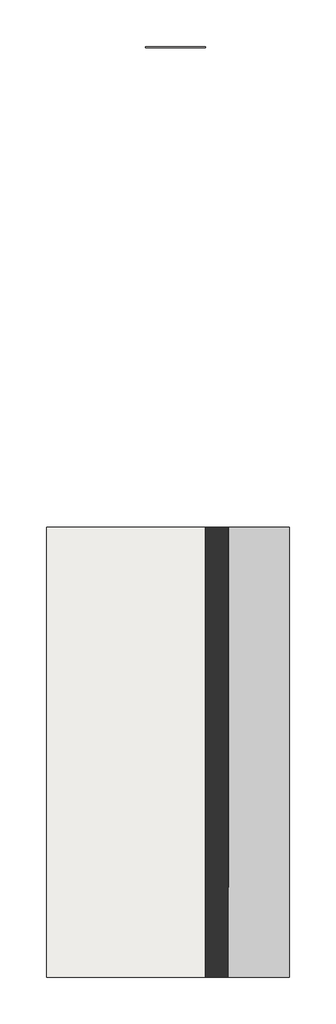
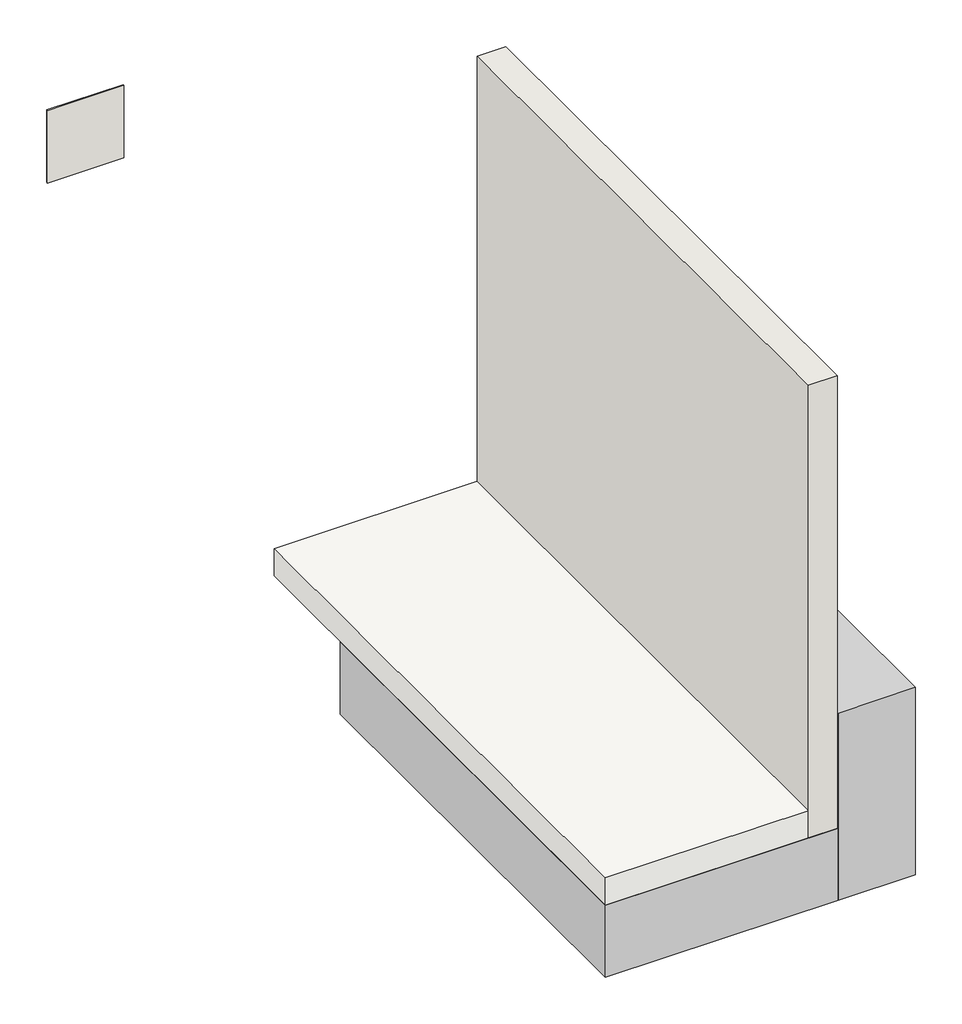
# One storey: 2 walls, 1 proxy, 1 slab.
"""IFC4 building model written with IfcOpenShell, lengths in millimetres."""

from ifc_helpers import new_model, si_unit, frame, origin, place, context, project, spatial, polyline, outline, extrude, transform, mapped, element, save
from components import generic_models_d400f225

model = new_model("IFC4")

# Units and contexts
model_context = context("Model", 3, world=origin())
ifc_project = project(units=[si_unit("LENGTHUNIT", "METRE", prefix="MILLI")], contexts=[model_context])

# Site, building, storey
site = spatial("IfcSite", under=ifc_project)
building = spatial("IfcBuilding", under=site)
storey = spatial("IfcBuildingStorey", under=building, Name="ARQ Térreo", Elevation=-2.523798)

# Proxy
placement = place(None, origin())
generic_models_shape = generic_models_d400f225(model_context)
element("IfcBuildingElementProxy", 1, Name="IMPER:IMPER:433934 : IMPER:IMPER:433934", ObjectType="IMPER:IMPER:433934 : IMPER:IMPER:433934", at=placement, inside=storey, context=model_context, shape_type="MappedRepresentation", body=[
    mapped(generic_models_shape, transform((0.0, 0.0, 0.0), x_axis=(1.0, 0.0, 0.0), y_axis=(0.0, 1.0, 0.0), z_axis=(0.0, 0.0, 1.0))),
])

# Slab
element("IfcSlab", 2, ObjectType="Genérico 150 mm", at=placement, inside=storey, context=model_context, shape_type="SweptSolid", body=[
    extrude(outline(polyline([(-1562.7804486, 145.8700195), (-501.9704105, 145.8700195), (-501.9704105, -2854.1299805), (-1562.7804486, -2854.1299805), (-1562.7804486, 145.8700195)])), frame((0.0, 0.0, -2.523798), z_axis=(0.0, 0.0, 1.0), x_axis=(1.0, 0.0, 0.0)), (0.0, 0.0, 1.0), 150.0),
])

# Walls
element("IfcWall", 3, ObjectType="Parede básica:Parede Concreto", at=placement, inside=storey, context=model_context, shape_type="SweptSolid", body=[
    extrude(outline(polyline([(-501.9704105, -2854.1299805), (-501.9704105, 145.8700195), (-351.9704105, 145.8700195), (-351.9704105, -2854.1299805), (-501.9704105, -2854.1299805)])), frame((0.0, 0.0, -2.523798), z_axis=(0.0, 0.0, 1.0), x_axis=(1.0, 0.0, 0.0)), (0.0, 0.0, 1.0), 2500.0),
])
element("IfcWall", 4, ObjectType="IMPV_AMPHIBIA", at=placement, inside=storey, context=model_context, shape_type="SweptSolid", body=[
    extrude(outline(polyline([(-901.9704105, 3349.3700195), (-501.9704105, 3349.3700195), (-501.9704105, 3342.3700195), (-901.9704105, 3342.3700195), (-901.9704105, 3349.3700195)])), frame((0.0, 0.0, -2.523798), z_axis=(0.0, 0.0, 1.0), x_axis=(1.0, 0.0, 0.0)), (0.0, 0.0, 1.0), 400.0),
])

save(model, "model.ifc")
